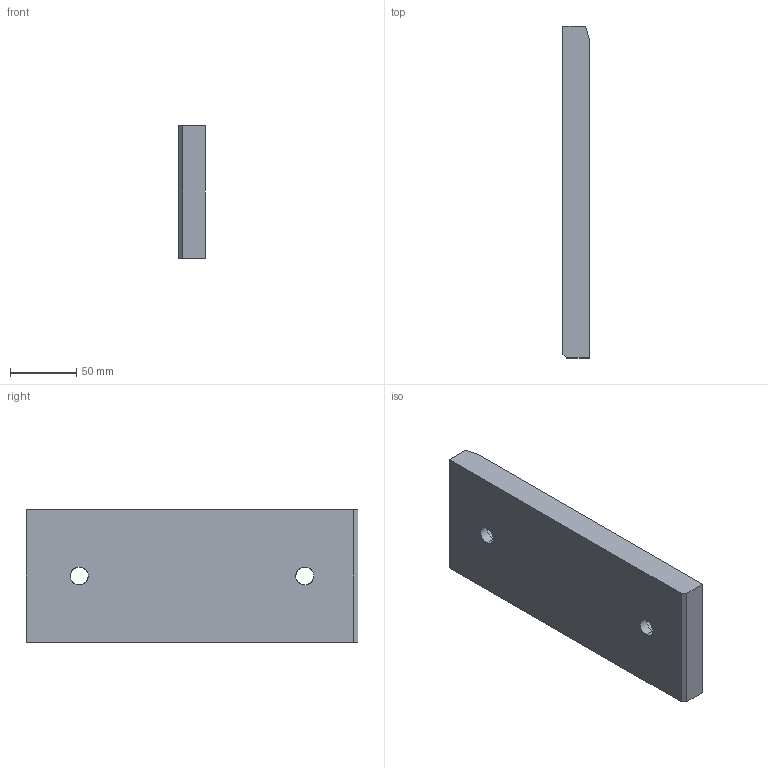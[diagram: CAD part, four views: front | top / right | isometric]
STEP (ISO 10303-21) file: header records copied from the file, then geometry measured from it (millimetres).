
FILE_DESCRIPTION(('CATIA V5 STEP Exchange'),'2;1');
FILE_NAME('C:\Users\borellobunino\Desktop\3D X SITO CF\A915\GSB_OILLESS_G22501100250\STEP-2.03\A915-100X250.stp','2019-07-14T13:37:38+00:00',('none'),('none'),'CATIA Version 5 Release 20 GA (IN-10)','CATIA V5 STEP AP203','none');
FILE_SCHEMA(('CONFIG_CONTROL_DESIGN'));
Length unit declared in the file: millimetre
Products named in the file (1): A915-100X250
Bounding box: 20 x 250 x 100 mm (x, y, z)
Volume: 487777.3 mm3; surface area: 65056 mm2
Topology: 1 solids, 1 shells, 23 faces, 73 edges, 54 vertices
Faces by surface type: plane 10, cylinder 9, torus 4
Entity records: 1057 total; most frequent: CARTESIAN_POINT 375, ORIENTED_EDGE 146, DIRECTION 103, EDGE_CURVE 73, AXIS2_PLACEMENT_3D 54, VERTEX_POINT 54, CIRCLE 30, EDGE_LOOP 29
